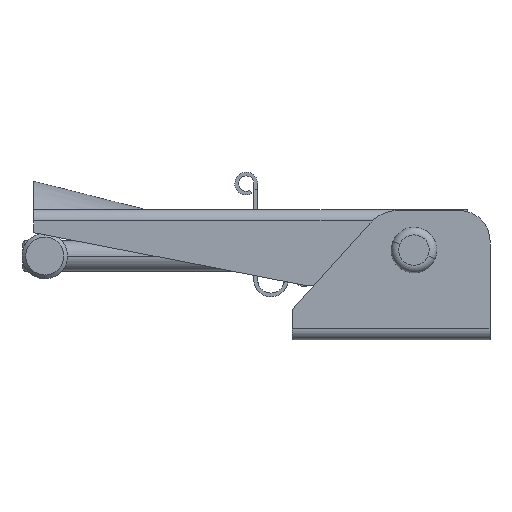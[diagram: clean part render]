
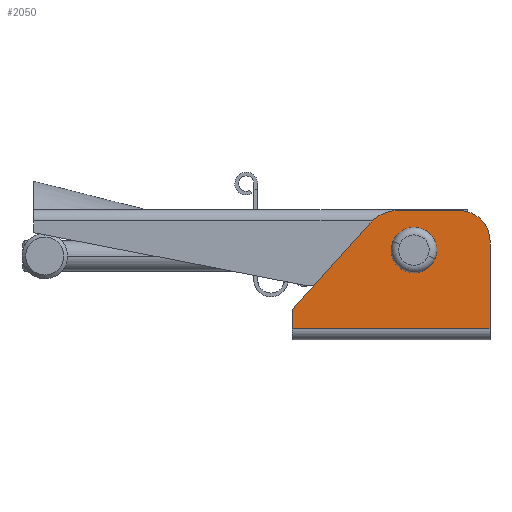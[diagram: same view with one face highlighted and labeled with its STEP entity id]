
A CAD part, left-side view. The second image highlights one B-rep face of the part: STEP entity #2050.
In plain terms, the highlighted planar face has unit normal (-1, 0, 0).
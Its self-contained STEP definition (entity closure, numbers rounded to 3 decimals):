
#1858 = ORIENTED_EDGE ( 'NONE', *, *, #2272, .T. ) ;
#1859 = VERTEX_POINT ( 'NONE', #6821 ) ;
#1951 = ORIENTED_EDGE ( 'NONE', *, *, #1952, .T. ) ;
#1952 = EDGE_CURVE ( 'NONE', #1969, #1859, #6961, .T. ) ;
#1966 = EDGE_CURVE ( 'NONE', #2101, #2248, #7046, .T. ) ;
#1967 = ORIENTED_EDGE ( 'NONE', *, *, #1968, .T. ) ;
#1968 = EDGE_CURVE ( 'NONE', #2101, #1969, #7021, .T. ) ;
#1969 = VERTEX_POINT ( 'NONE', #7008 ) ;
#1973 = EDGE_CURVE ( 'NONE', #1859, #1976, #7057, .T. ) ;
#1974 = ORIENTED_EDGE ( 'NONE', *, *, #1973, .T. ) ;
#1976 = VERTEX_POINT ( 'NONE', #7125 ) ;
#2049 = EDGE_CURVE ( 'NONE', #2120, #2248, #7091, .T. ) ;
#2050 = ADVANCED_FACE ( 'NONE', ( #7084, #7083 ), #7082, .F. ) ;
#2051 = EDGE_LOOP ( 'NONE', ( #2052, #2054 ) ) ;
#2052 = ORIENTED_EDGE ( 'NONE', *, *, #2053, .F. ) ;
#2053 = EDGE_CURVE ( 'NONE', #2225, #2222, #7077, .T. ) ;
#2054 = ORIENTED_EDGE ( 'NONE', *, *, #2224, .F. ) ;
#2055 = EDGE_LOOP ( 'NONE', ( #1974, #1858, #2079, #2099, #2100, #1967, #1951 ) ) ;
#2079 = ORIENTED_EDGE ( 'NONE', *, *, #2080, .T. ) ;
#2080 = EDGE_CURVE ( 'NONE', #2098, #2120, #7198, .T. ) ;
#2098 = VERTEX_POINT ( 'NONE', #7275 ) ;
#2099 = ORIENTED_EDGE ( 'NONE', *, *, #2049, .T. ) ;
#2100 = ORIENTED_EDGE ( 'NONE', *, *, #1966, .F. ) ;
#2101 = VERTEX_POINT ( 'NONE', #7274 ) ;
#2120 = VERTEX_POINT ( 'NONE', #7232 ) ;
#2222 = VERTEX_POINT ( 'NONE', #7542 ) ;
#2224 = EDGE_CURVE ( 'NONE', #2222, #2225, #7541, .T. ) ;
#2225 = VERTEX_POINT ( 'NONE', #7536 ) ;
#2248 = VERTEX_POINT ( 'NONE', #7509 ) ;
#2272 = EDGE_CURVE ( 'NONE', #1976, #2098, #7441, .T. ) ;
#6821 = CARTESIAN_POINT ( 'NONE',  ( -13., -6., 17. ) ) ;
#6934 = DIRECTION ( 'NONE',  ( 0., 0., -1. ) ) ;
#6935 = DIRECTION ( 'NONE',  ( -1., 0., 0. ) ) ;
#6936 = CARTESIAN_POINT ( 'NONE',  ( -13., -6., 13. ) ) ;
#6937 = AXIS2_PLACEMENT_3D ( 'NONE', #6936, #6935, #6934 ) ;
#6961 = CIRCLE ( 'NONE', #6937, 4. ) ;
#7008 = CARTESIAN_POINT ( 'NONE',  ( -13., -10., 13. ) ) ;
#7018 = DIRECTION ( 'NONE',  ( 0., 0., 1. ) ) ;
#7019 = VECTOR ( 'NONE', #7018, 1000. ) ;
#7020 = CARTESIAN_POINT ( 'NONE',  ( -13., -10., 17. ) ) ;
#7021 = LINE ( 'NONE', #7020, #7019 ) ;
#7043 = DIRECTION ( 'NONE',  ( 0., 1., 0. ) ) ;
#7044 = VECTOR ( 'NONE', #7043, 1000. ) ;
#7045 = CARTESIAN_POINT ( 'NONE',  ( -13., -10., 1.45 ) ) ;
#7046 = LINE ( 'NONE', #7045, #7044 ) ;
#7056 = CARTESIAN_POINT ( 'NONE',  ( -13., 16., 17. ) ) ;
#7057 = LINE ( 'NONE', #7056, #7127 ) ;
#7073 = DIRECTION ( 'NONE',  ( 0., 0., 1. ) ) ;
#7074 = DIRECTION ( 'NONE',  ( -1., 0., 0. ) ) ;
#7075 = CARTESIAN_POINT ( 'NONE',  ( -13., 0., 11.8 ) ) ;
#7076 = AXIS2_PLACEMENT_3D ( 'NONE', #7075, #7074, #7073 ) ;
#7077 = CIRCLE ( 'NONE', #7076, 2. ) ;
#7078 = DIRECTION ( 'NONE',  ( 0., 0., -1. ) ) ;
#7079 = DIRECTION ( 'NONE',  ( 1., 0., 0. ) ) ;
#7080 = CARTESIAN_POINT ( 'NONE',  ( -13., -10., 1.25 ) ) ;
#7081 = AXIS2_PLACEMENT_3D ( 'NONE', #7080, #7079, #7078 ) ;
#7082 = PLANE ( 'NONE',  #7081 ) ;
#7083 = FACE_OUTER_BOUND ( 'NONE', #2055, .T. ) ;
#7084 = FACE_BOUND ( 'NONE', #2051, .T. ) ;
#7085 = DIRECTION ( 'NONE',  ( 0., 0., -1. ) ) ;
#7086 = VECTOR ( 'NONE', #7085, 1000. ) ;
#7087 = CARTESIAN_POINT ( 'NONE',  ( -13., 16., 1.25 ) ) ;
#7091 = LINE ( 'NONE', #7087, #7086 ) ;
#7125 = CARTESIAN_POINT ( 'NONE',  ( -13., 2.069, 17. ) ) ;
#7126 = DIRECTION ( 'NONE',  ( 0., 1., 0. ) ) ;
#7127 = VECTOR ( 'NONE', #7126, 1000. ) ;
#7198 = LINE ( 'NONE', #7257, #7256 ) ;
#7232 = CARTESIAN_POINT ( 'NONE',  ( -13., 16., 4. ) ) ;
#7255 = DIRECTION ( 'NONE',  ( 0., 0.669, -0.743 ) ) ;
#7256 = VECTOR ( 'NONE', #7255, 1000. ) ;
#7257 = CARTESIAN_POINT ( 'NONE',  ( -13., 5.726, 15.41 ) ) ;
#7274 = CARTESIAN_POINT ( 'NONE',  ( -13., -10., 1.45 ) ) ;
#7275 = CARTESIAN_POINT ( 'NONE',  ( -13., 5.784, 15.346 ) ) ;
#7437 = DIRECTION ( 'NONE',  ( 0., 0., -1. ) ) ;
#7438 = DIRECTION ( 'NONE',  ( -1., 0., 0. ) ) ;
#7439 = CARTESIAN_POINT ( 'NONE',  ( -13., 2.069, 12. ) ) ;
#7440 = AXIS2_PLACEMENT_3D ( 'NONE', #7439, #7438, #7437 ) ;
#7441 = CIRCLE ( 'NONE', #7440, 5. ) ;
#7509 = CARTESIAN_POINT ( 'NONE',  ( -13., 16., 1.45 ) ) ;
#7536 = CARTESIAN_POINT ( 'NONE',  ( -13., 0., 13.8 ) ) ;
#7537 = DIRECTION ( 'NONE',  ( 0., 0., 1. ) ) ;
#7538 = DIRECTION ( 'NONE',  ( -1., 0., 0. ) ) ;
#7539 = CARTESIAN_POINT ( 'NONE',  ( -13., 0., 11.8 ) ) ;
#7540 = AXIS2_PLACEMENT_3D ( 'NONE', #7539, #7538, #7537 ) ;
#7541 = CIRCLE ( 'NONE', #7540, 2. ) ;
#7542 = CARTESIAN_POINT ( 'NONE',  ( -13., 0., 9.8 ) ) ;
